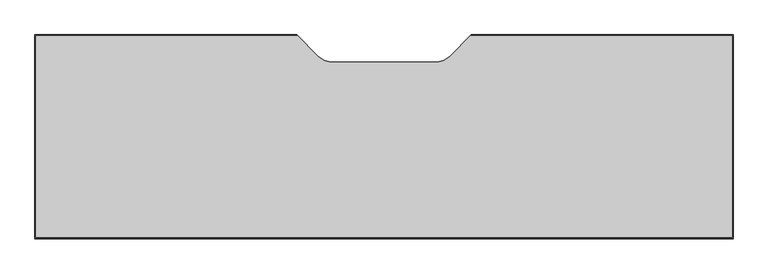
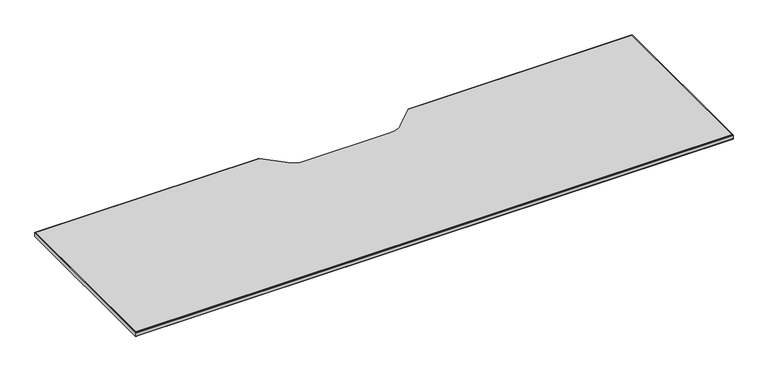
"""IFC4 building model written with IfcOpenShell, lengths in millimetres: furniture geometry, Steelcase Turnstone - Bivi - Table - Table Top : 21D x 72W."""

from ifc_helpers import new_model, si_unit, point, frame, frame_2d, origin, place, context, project, spatial, polyline, circle_curve, trimmed, segment, composite_curve, outline, extrude, source, transform, mapped, element, save
from ifc_brep_helpers import plane_surface, cylinder_surface, advanced_brep


def furniture_fe8123d2(model_context):
    return source(origin(), model_context, "Body", "SolidModel", [
        advanced_brep(
        [(514.3499939, 727.0750061, 723.566625), (515.3499939, 726.0750061, 723.566625), (515.3499939, 726.0750061, 710.485625), (514.3499939, 727.0750061, 710.485625), (957.8500067, 726.0750061, 723.566625), (958.8500061, 727.0750061, 723.566625), (958.8500061, 727.0750061, 710.485625), (957.8500067, 726.0750061, 710.485625), (1625.6, 727.0750061, 723.566625), (1624.6, 726.0750061, 723.566625), (1624.6, 209.3750061, 723.566625), (-151.4, 209.3750061, 723.566625), (-151.4, 726.0750061, 723.566625), (-152.4, 727.0750061, 723.566625), (-152.4, 208.4070061, 723.566625), (1625.6, 208.4070061, 723.566625), (1624.6, 726.0750061, 710.485625), (1624.6, 209.3750061, 710.485625), (1625.6, 727.0750061, 710.485625), (1625.6, 208.4070061, 710.485625), (-152.4, 208.4070061, 710.485625), (-152.4, 727.0750061, 710.485625), (-151.4, 726.0750061, 710.485625), (-151.4, 209.3750061, 710.485625), (1625.6, 206.3750061, 721.534625), (1625.6, 206.3750061, 712.517625), (-152.4, 206.3750061, 712.517625), (-152.4, 206.3750061, 721.534625)],
        [
            (0, 1),
            (1, 2),
            (2, 3),
            (3, 0),
            (4, 5),
            (5, 6),
            (6, 7),
            (7, 4),
            (8, 5),
            (4, 9),
            (9, 10),
            (10, 11),
            (11, 12),
            (12, 1),
            (0, 13),
            (13, 14),
            (14, 15),
            (15, 8),
            (9, 16),
            (16, 17),
            (17, 10),
            (16, 7),
            (6, 18),
            (18, 19),
            (19, 20),
            (20, 21),
            (21, 3),
            (2, 22),
            (22, 23),
            (23, 17),
            (15, 24, circle_curve(frame((1625.6, 208.4070061, 721.534625), z_axis=(1.0, 0.0, 0.0), x_axis=(0.0, 1.0, 0.0)), 2.032)),
            (24, 25),
            (25, 19, circle_curve(frame((1625.6, 208.4070061, 712.517625), z_axis=(1.0, 0.0, 0.0), x_axis=(0.0, 1.0, 0.0)), 2.032)),
            (18, 8),
            (12, 22),
            (21, 13),
            (11, 23),
            (20, 26, circle_curve(frame((-152.4, 208.4070061, 712.517625), z_axis=(-1.0, 0.0, 0.0), x_axis=(0.0, 1.0, 0.0)), 2.032)),
            (26, 27),
            (27, 14, circle_curve(frame((-152.4, 208.4070061, 721.534625), z_axis=(-1.0, 0.0, 0.0), x_axis=(0.0, 1.0, 0.0)), 2.032)),
            (25, 26),
            (24, 27),
        ],
        [
            plane_surface(frame((514.3499939, 727.0750061, 724.4389999), z_axis=(0.7071067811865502, 0.7071067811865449, 0.0), x_axis=(0.0, 0.0, -1.0))),
            plane_surface(frame((904.6973766, 672.9223408, 724.4389999), z_axis=(-0.7071070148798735, 0.7071065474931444, 0.0), x_axis=(0.0, 0.0, -1.0))),
            plane_surface(frame((1625.6, 209.3750061, 723.566625), z_axis=(0.0, 0.0, 1.0), x_axis=(0.0, 1.0, 0.0))),
            plane_surface(frame((1624.6, 209.3750061, 723.566625), z_axis=(-1.0, 0.0, 0.0), x_axis=(0.0, 1.0, 0.0))),
            plane_surface(frame((1624.6, 209.3750061, 710.485625), z_axis=(0.0, 0.0, -1.0), x_axis=(0.0, 1.0, 0.0))),
            plane_surface(frame((1625.6, 209.3750061, 710.485625), z_axis=(1.0, 0.0, 0.0), x_axis=(0.0, 1.0, 0.0))),
            plane_surface(frame((1624.6, 726.0750061, 723.566625), z_axis=(0.0, -1.0, 0.0), x_axis=(-1.0, 0.0, 0.0))),
            plane_surface(frame((1625.6, 727.0750061, 710.485625), z_axis=(0.0, 1.0, 0.0), x_axis=(-1.0, 0.0, 0.0))),
            plane_surface(frame((-151.4, 726.0750061, 723.566625), z_axis=(1.0, 0.0, 0.0), x_axis=(0.0, -1.0, 0.0))),
            plane_surface(frame((-152.4, 727.0750061, 710.485625), z_axis=(-1.0, 0.0, 0.0), x_axis=(0.0, -1.0, 0.0))),
            cylinder_surface(frame((-152.4, 208.4070061, 712.517625), z_axis=(-1.0, 0.0, 0.0), x_axis=(0.0, 1.0, 0.0)), 2.032),
            plane_surface(frame((-152.4, 206.3750061, 712.517625), z_axis=(0.0, -1.0, 0.0), x_axis=(1.0, 0.0, 0.0))),
            cylinder_surface(frame((-152.4, 208.4070061, 721.534625), z_axis=(-1.0, 0.0, 0.0), x_axis=(0.0, 1.0, 0.0)), 2.032),
            plane_surface(frame((-152.4, 209.3750061, 723.566625), z_axis=(0.0, 1.0, 0.0), x_axis=(1.0, 0.0, 0.0))),
        ],
        [
            (0, [[1, 2, 3, 4]]),
            (1, [[5, 6, 7, 8]]),
            (2, [[9, -5, 10, 11, 12, 13, 14, -1, 15, 16, 17, 18]]),
            (3, [[-11, 19, 20, 21]]),
            (4, [[-20, 22, -7, 23, 24, 25, 26, 27, -3, 28, 29, 30]]),
            (5, [[-18, 31, 32, 33, -24, 34]]),
            (6, [[-19, -10, -8, -22]]),
            (6, [[35, -28, -2, -14]]),
            (7, [[-34, -23, -6, -9]]),
            (7, [[36, -15, -4, -27]]),
            (8, [[-13, 37, -29, -35]]),
            (9, [[-16, -36, -26, 38, 39, 40]]),
            (10, [[-38, -25, -33, 41]]),
            (11, [[-39, -41, -32, 42]]),
            (12, [[-40, -42, -31, -17]]),
            (13, [[-30, -37, -12, -21]]),
        ],
    ),
        extrude(outline(composite_curve([segment(polyline([(1624.6, 726.0750061), (1624.6, 209.3750061), (-151.4, 209.3750061), (-151.4, 726.0750061), (515.3499939, 726.0750061), (568.512149, 672.912851)]), True, "CONTINUOUS"), segment(trimmed(circle_curve(frame_2d((606.3859497, 710.7866517)), 53.5616426), [point((568.512149, 672.912851))], [point((606.3859497, 657.2250091))], True, "CARTESIAN"), True, "CONTINUOUS"), segment(polyline([(606.3859497, 657.2250091), (866.8006832, 657.2250091)]), True, "CONTINUOUS"), segment(trimmed(circle_curve(frame_2d((866.8006832, 710.8190091)), 53.594), [point((866.8006832, 657.2250091))], [point((904.6973766, 672.9223408))], True, "CARTESIAN"), True, "CONTINUOUS"), segment(polyline([(904.6973766, 672.9223408), (957.8500067, 726.0750061), (1624.6, 726.0750061)]), True, "CONTINUOUS")], self_intersect=False)), frame((0.0, 0.0, 710.485625), z_axis=(0.0, 0.0, 1.0), x_axis=(1.0, 0.0, 0.0)), (0.0, 0.0, 1.0), 13.081),
    ])


if __name__ == "__main__":
    model = new_model("IFC4")
    model_context = context("Model", 3, world=origin())
    ifc_project = project(units=[si_unit("LENGTHUNIT", "METRE", prefix="MILLI")], contexts=[model_context])
    site = spatial("IfcSite", under=ifc_project)
    building = spatial("IfcBuilding", under=site)
    placement = place(None, origin())
    furniture_shape = furniture_fe8123d2(model_context)
    element("IfcFurniture", 1, ObjectType="Steelcase Turnstone - Bivi - Table - Table Top : 21D x 72W", at=placement, inside=building, context=model_context, shape_type="MappedRepresentation", body=[
        mapped(furniture_shape, transform((0.0, 0.0, 0.0), x_axis=(1.0, 0.0, 0.0), y_axis=(0.0, 1.0, 0.0), z_axis=(0.0, 0.0, 1.0))),
    ])
    save(model, "model.ifc")
